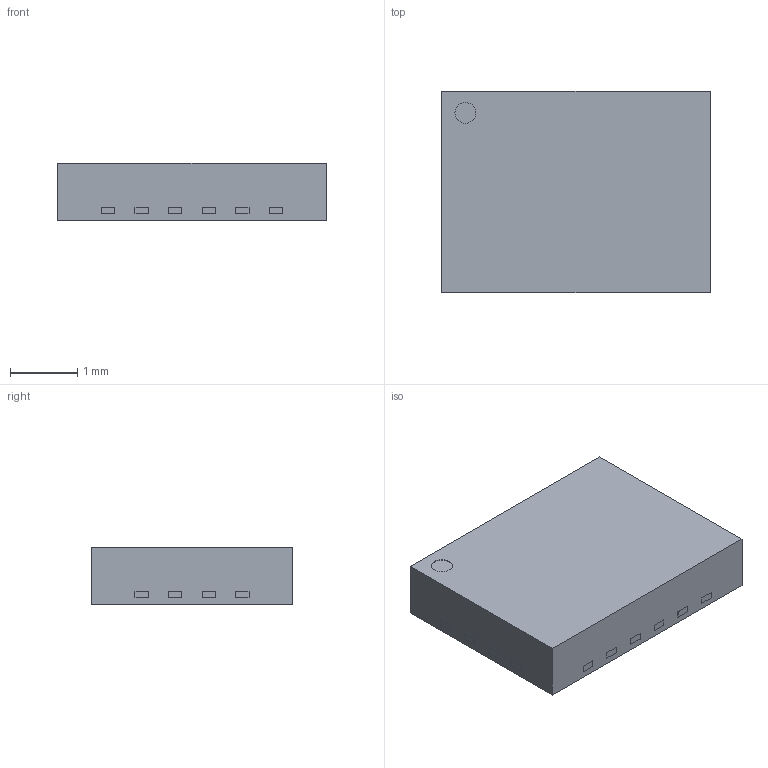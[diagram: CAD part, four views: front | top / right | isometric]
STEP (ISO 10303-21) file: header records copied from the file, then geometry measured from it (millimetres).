
FILE_DESCRIPTION(/* description */ ('Unknown'),/* implementation_level */ '2;1');
FILE_NAME(/* name */ 'QPA0001',/* time_stamp */ '2025-01-15T14:32:34+02:00',/* author */ ('Unknown'),/* organization */ ('Unknown'),/* preprocessor_version */ 'ST-DEVELOPER v19.4',/* originating_system */ 'Solid Edge',/* authorisation */ 'Unknown');
FILE_SCHEMA (('AUTOMOTIVE_DESIGN {1 0 10303 214 3 1 1}'));
Length unit declared in the file: millimetre
Products named in the file (1): QPA0001
Bounding box: 4 x 3 x 0.85 mm (x, y, z)
Volume: 10.2 mm3; surface area: 36 mm2
Topology: 1 solids, 1 shells, 254 faces, 630 edges, 420 vertices
Faces by surface type: plane 213, cylinder 41
Full cylindrical faces by diameter (mm): 0.312 x1
Entity records: 9253 total; most frequent: CARTESIAN_POINT 1304, ORIENTED_EDGE 1258, DIRECTION 1221, EDGE_CURVE 629, LINE 547, VECTOR 547, VERTEX_POINT 420, AXIS2_PLACEMENT_3D 337
